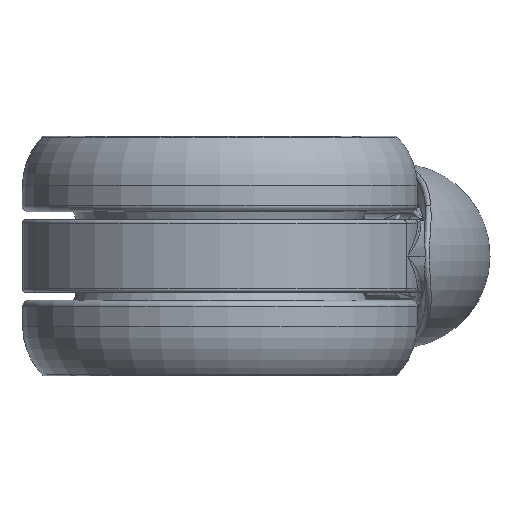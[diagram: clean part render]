
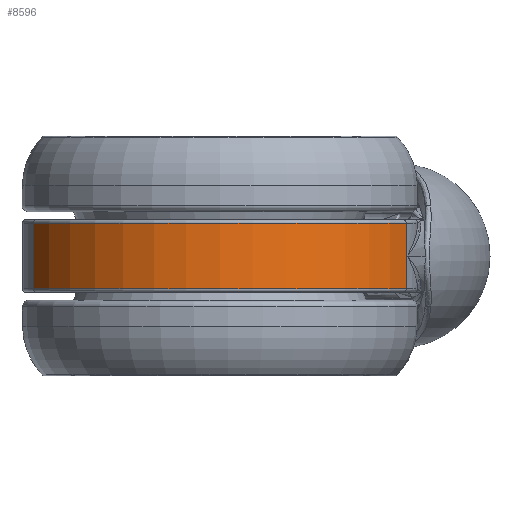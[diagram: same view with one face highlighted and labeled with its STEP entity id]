
A CAD part, front view. The second image highlights one B-rep face of the part: STEP entity #8596.
In plain terms, the highlighted cylindrical face has radius 30.924 mm (diameter 61.847 mm), a partial arc.
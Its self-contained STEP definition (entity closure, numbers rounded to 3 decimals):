
#2 = VECTOR ( 'NONE', #6026, 1000. ) ;
#62 = EDGE_CURVE ( 'NONE', #16943, #1098, #14871, .T. ) ;
#1098 = VERTEX_POINT ( 'NONE', #20073 ) ;
#2729 = CYLINDRICAL_SURFACE ( 'NONE', #4487, 30.924 ) ;
#2948 = CARTESIAN_POINT ( 'NONE',  ( 0., 3.924, 12.5 ) ) ;
#4487 = AXIS2_PLACEMENT_3D ( 'NONE', #2948, #19147, #8423 ) ;
#5383 = CIRCLE ( 'NONE', #8432, 30.924 ) ;
#6026 = DIRECTION ( 'NONE',  ( 0., 0., -1. ) ) ;
#6042 = AXIS2_PLACEMENT_3D ( 'NONE', #16842, #20275, #16722 ) ;
#6803 = DIRECTION ( 'NONE',  ( 0., 0., 1. ) ) ;
#7163 = EDGE_CURVE ( 'NONE', #15610, #9500, #8170, .T. ) ;
#7959 = FACE_OUTER_BOUND ( 'NONE', #16256, .T. ) ;
#8170 = LINE ( 'NONE', #15077, #2 ) ;
#8423 = DIRECTION ( 'NONE',  ( -1., 0., 0. ) ) ;
#8432 = AXIS2_PLACEMENT_3D ( 'NONE', #8483, #6803, #10277 ) ;
#8483 = CARTESIAN_POINT ( 'NONE',  ( 0., 3.924, -5. ) ) ;
#8596 = ADVANCED_FACE ( 'NONE', ( #7959 ), #2729, .T. ) ;
#8684 = CARTESIAN_POINT ( 'NONE',  ( 28.273, -8.602, -5. ) ) ;
#8908 = ORIENTED_EDGE ( 'NONE', *, *, #62, .T. ) ;
#9500 = VERTEX_POINT ( 'NONE', #17501 ) ;
#10277 = DIRECTION ( 'NONE',  ( -1., 0., 0. ) ) ;
#10285 = CARTESIAN_POINT ( 'NONE',  ( -28.273, -8.602, 5. ) ) ;
#10743 = ORIENTED_EDGE ( 'NONE', *, *, #21698, .T. ) ;
#13198 = DIRECTION ( 'NONE',  ( 0., 0., 1. ) ) ;
#13556 = ORIENTED_EDGE ( 'NONE', *, *, #18373, .T. ) ;
#14415 = CIRCLE ( 'NONE', #6042, 30.924 ) ;
#14871 = LINE ( 'NONE', #20332, #22069 ) ;
#15077 = CARTESIAN_POINT ( 'NONE',  ( -28.273, -8.602, 12.5 ) ) ;
#15610 = VERTEX_POINT ( 'NONE', #10285 ) ;
#16256 = EDGE_LOOP ( 'NONE', ( #18338, #13556, #8908, #10743 ) ) ;
#16722 = DIRECTION ( 'NONE',  ( 1., 0., 0. ) ) ;
#16842 = CARTESIAN_POINT ( 'NONE',  ( 0., 3.924, 5. ) ) ;
#16943 = VERTEX_POINT ( 'NONE', #8684 ) ;
#17501 = CARTESIAN_POINT ( 'NONE',  ( -28.273, -8.602, -5. ) ) ;
#18338 = ORIENTED_EDGE ( 'NONE', *, *, #7163, .T. ) ;
#18373 = EDGE_CURVE ( 'NONE', #9500, #16943, #5383, .T. ) ;
#19147 = DIRECTION ( 'NONE',  ( 0., 0., -1. ) ) ;
#20073 = CARTESIAN_POINT ( 'NONE',  ( 28.273, -8.602, 5. ) ) ;
#20275 = DIRECTION ( 'NONE',  ( 0., 0., -1. ) ) ;
#20332 = CARTESIAN_POINT ( 'NONE',  ( 28.273, -8.602, 12.5 ) ) ;
#21698 = EDGE_CURVE ( 'NONE', #1098, #15610, #14415, .T. ) ;
#22069 = VECTOR ( 'NONE', #13198, 1000. ) ;
